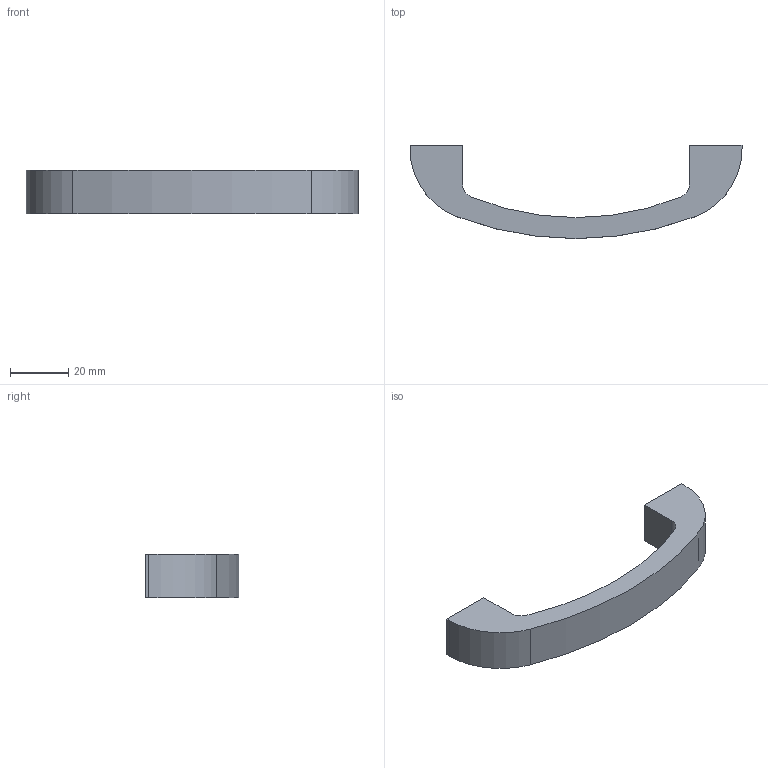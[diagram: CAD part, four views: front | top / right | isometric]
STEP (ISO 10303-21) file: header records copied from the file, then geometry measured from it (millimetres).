
FILE_DESCRIPTION( ( '' ), '1' );
FILE_NAME( 'D:/1.AUTOCAD EXPORT/Group 10/sheet_10_1/DONE/Sachin_1/115288.stp', '2013-10-29T09:55:17', ( '' ), ( '' ), ' ', ' ', ' ' );
FILE_SCHEMA( ( 'CONFIG_CONTROL_DESIGN' ) );
Length unit declared in the file: millimetre
Products named in the file (1): 1
Bounding box: 114 x 32 x 15 mm (x, y, z)
Volume: 19012.9 mm3; surface area: 7171.6 mm2
Topology: 1 solids, 1 shells, 20 faces, 48 edges, 32 vertices
Faces by surface type: cylinder 10, plane 10
Entity records: 636 total; most frequent: DIRECTION 110, CARTESIAN_POINT 101, ORIENTED_EDGE 96, EDGE_CURVE 48, AXIS2_PLACEMENT_3D 41, VERTEX_POINT 32, LINE 28, VECTOR 28
